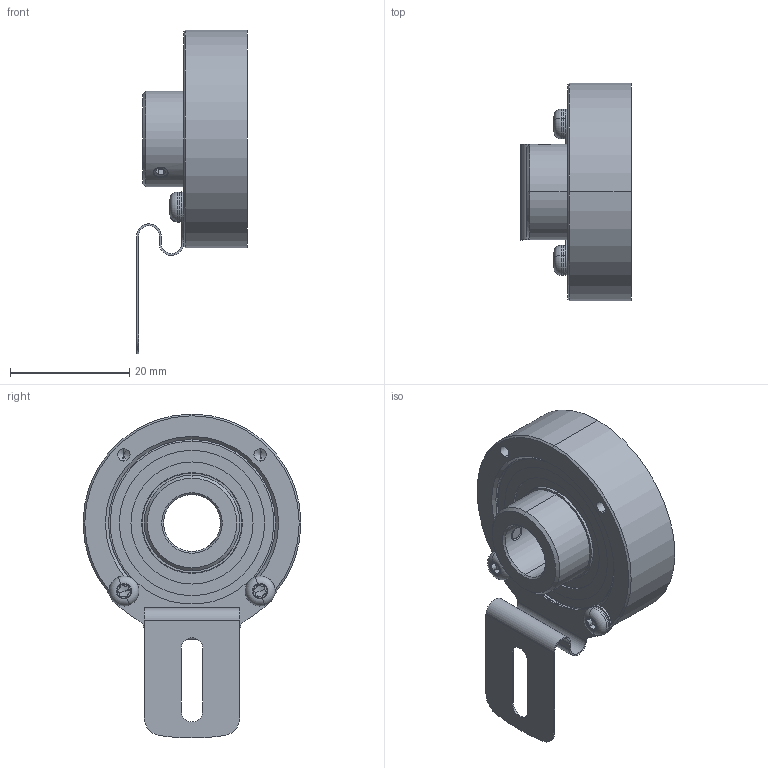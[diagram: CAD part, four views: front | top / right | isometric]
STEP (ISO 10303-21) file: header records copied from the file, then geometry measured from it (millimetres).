
FILE_DESCRIPTION (( 'STEP AP214' ), '1' );
FILE_NAME ('drawing-ucd-asa0-q3a-n.STEP', '2017-01-16T10:04:23', ( '' ), ( '' ), 'SwSTEP 2.0', 'SolidWorks 2015', '' );
FILE_SCHEMA (( 'AUTOMOTIVE_DESIGN' ));
Length unit declared in the file: millimetre
Products named in the file (1): drawing-ucd-asa0-q3a-n
Bounding box: 18.5 x 36.5 x 54.25 mm (x, y, z)
Volume: 9284.7 mm3; surface area: 12464.2 mm2
Topology: 20 solids, 20 shells, 374 faces, 918 edges, 559 vertices
Faces by surface type: cylinder 127, plane 91, cone 74, bspline 62, torus 20
Entity records: 13474 total; most frequent: CARTESIAN_POINT 4650, DIRECTION 1815, ORIENTED_EDGE 1752, EDGE_CURVE 876, AXIS2_PLACEMENT_3D 780, VERTEX_POINT 559, CIRCLE 467, EDGE_LOOP 431
